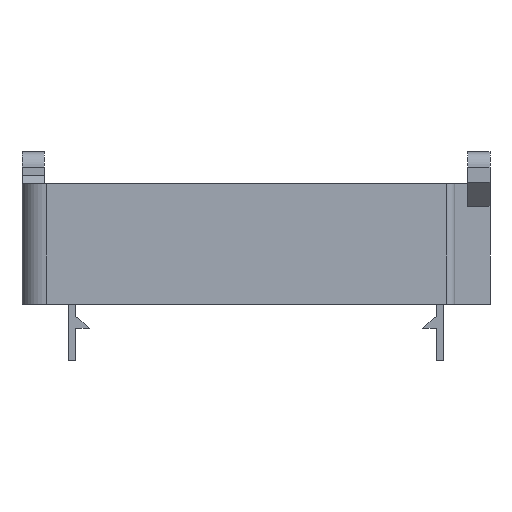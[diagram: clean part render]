
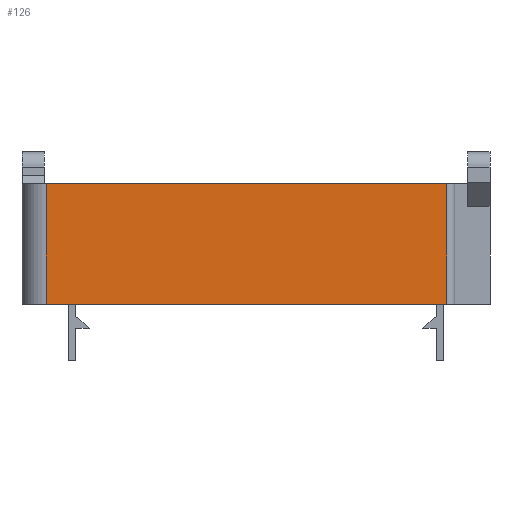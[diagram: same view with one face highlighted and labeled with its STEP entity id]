
A CAD part, left-side view. The second image highlights one B-rep face of the part: STEP entity #126.
In plain terms, the highlighted planar face has unit normal (-1, 0, 0).
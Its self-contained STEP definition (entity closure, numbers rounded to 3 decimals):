
#32 = FACE_OUTER_BOUND ( 'NONE', #793, .T. ) ;
#39 = AXIS2_PLACEMENT_3D ( 'NONE', #1076, #1077, #1078 ) ;
#126 = ADVANCED_FACE ( 'NONE', ( #32 ), #1075, .F. ) ;
#202 = EDGE_CURVE ( 'NONE', #983, #982, #1352, .T. ) ;
#325 = EDGE_CURVE ( 'NONE', #982, #434, #1721, .T. ) ;
#326 = EDGE_CURVE ( 'NONE', #436, #983, #1724, .T. ) ;
#390 = EDGE_CURVE ( 'NONE', #436, #434, #1916, .T. ) ;
#434 = VERTEX_POINT ( 'NONE', #1947 ) ;
#436 = VERTEX_POINT ( 'NONE', #1949 ) ;
#625 = ORIENTED_EDGE ( 'NONE', *, *, #325, .T. ) ;
#721 = ORIENTED_EDGE ( 'NONE', *, *, #202, .T. ) ;
#756 = ORIENTED_EDGE ( 'NONE', *, *, #326, .T. ) ;
#771 = ORIENTED_EDGE ( 'NONE', *, *, #390, .F. ) ;
#793 = EDGE_LOOP ( 'NONE', ( #771, #756, #721, #625 ) ) ;
#982 = VERTEX_POINT ( 'NONE', #2016 ) ;
#983 = VERTEX_POINT ( 'NONE', #2017 ) ;
#1075 = PLANE ( 'NONE',  #39 ) ;
#1076 = CARTESIAN_POINT ( 'NONE',  ( -24., -24.8, 7.5 ) ) ;
#1077 = DIRECTION ( 'NONE',  ( 1., 0., 0. ) ) ;
#1078 = DIRECTION ( 'NONE',  ( 0., 0., -1. ) ) ;
#1352 = LINE ( 'NONE', #1353, #2371 ) ;
#1353 = CARTESIAN_POINT ( 'NONE',  ( -24., -24.8, -7.5 ) ) ;
#1354 = DIRECTION ( 'NONE',  ( 0., -1., 0. ) ) ;
#1721 = LINE ( 'NONE', #1722, #2265 ) ;
#1722 = CARTESIAN_POINT ( 'NONE',  ( -24., -23.8, 7.5 ) ) ;
#1723 = DIRECTION ( 'NONE',  ( 0., 0., 1. ) ) ;
#1724 = LINE ( 'NONE', #1725, #2277 ) ;
#1725 = CARTESIAN_POINT ( 'NONE',  ( -24., 26.2, -7.5 ) ) ;
#1726 = DIRECTION ( 'NONE',  ( 0., 0., -1. ) ) ;
#1916 = LINE ( 'NONE', #1917, #2308 ) ;
#1917 = CARTESIAN_POINT ( 'NONE',  ( -24., -24.8, 7.5 ) ) ;
#1918 = DIRECTION ( 'NONE',  ( 0., -1., 0. ) ) ;
#1947 = CARTESIAN_POINT ( 'NONE',  ( -24., -23.8, 7.5 ) ) ;
#1949 = CARTESIAN_POINT ( 'NONE',  ( -24., 26.2, 7.5 ) ) ;
#2016 = CARTESIAN_POINT ( 'NONE',  ( -24., -23.8, -7.5 ) ) ;
#2017 = CARTESIAN_POINT ( 'NONE',  ( -24., 26.2, -7.5 ) ) ;
#2265 = VECTOR ( 'NONE', #1723, 1000. ) ;
#2277 = VECTOR ( 'NONE', #1726, 1000. ) ;
#2308 = VECTOR ( 'NONE', #1918, 1000. ) ;
#2371 = VECTOR ( 'NONE', #1354, 1000. ) ;
